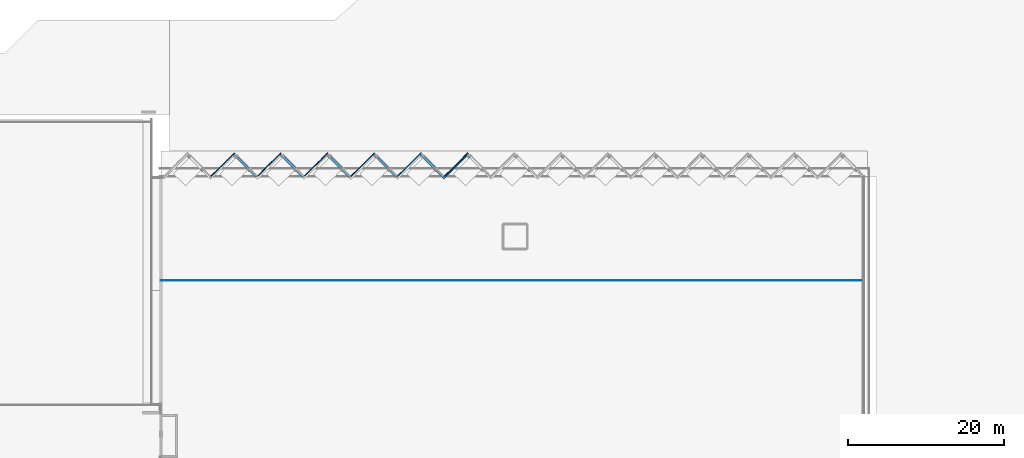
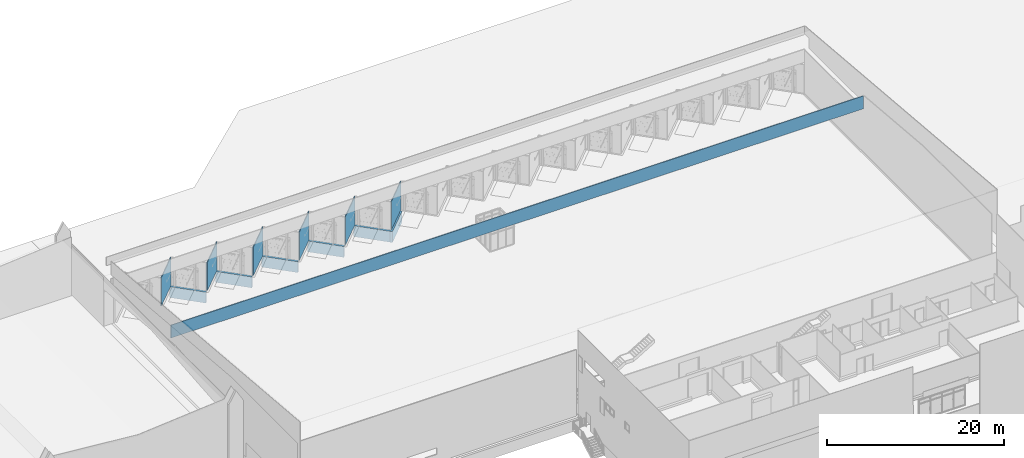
# One storey, part 35 of 64: 13 walls.
"""IFC2X3 building model written with IfcOpenShell, lengths in millimetres."""

from ifc_helpers import new_model, entity, si_unit, converted_unit, derived_unit, direction, frame, frame_2d, origin, place, context, subcontext, project, spatial, rectangle, extrude, material, layer, layer_set, layer_usage, type_object, element, save


model = new_model("IFC2X3")

# Units and contexts
model_context = context("Model", 3, precision=0.01, world=origin(), true_north=direction((4.05803320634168e-15, -1.0)))
body_context = subcontext(model_context, "Body", "Model", "MODEL_VIEW")
ifc_project = project(units=[si_unit("LENGTHUNIT", "METRE", prefix="MILLI"), si_unit("AREAUNIT", "SQUARE_METRE"), si_unit("VOLUMEUNIT", "CUBIC_METRE"), converted_unit("PLANEANGLEUNIT", "DEGREE", entity("IfcRatioMeasure", 0.0174532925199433), si_unit("PLANEANGLEUNIT", "RADIAN"), dimensions=[0, 0, 0, 0, 0, 0, 0]), si_unit("MASSUNIT", "GRAM", prefix="KILO"), derived_unit("MASSDENSITYUNIT", [(si_unit("MASSUNIT", "GRAM", prefix="KILO"), 1), (si_unit("LENGTHUNIT", "METRE"), -3)]), si_unit("TIMEUNIT", "SECOND"), si_unit("FREQUENCYUNIT", "HERTZ"), si_unit("THERMODYNAMICTEMPERATUREUNIT", "DEGREE_CELSIUS"), derived_unit("THERMALTRANSMITTANCEUNIT", [(si_unit("MASSUNIT", "GRAM", prefix="KILO"), 1), (si_unit("THERMODYNAMICTEMPERATUREUNIT", "KELVIN"), -1), (si_unit("TIMEUNIT", "SECOND"), -3)]), derived_unit("VOLUMETRICFLOWRATEUNIT", [(si_unit("LENGTHUNIT", "METRE"), 3), (si_unit("TIMEUNIT", "SECOND"), -1)]), si_unit("ELECTRICCURRENTUNIT", "AMPERE"), si_unit("ELECTRICVOLTAGEUNIT", "VOLT"), si_unit("POWERUNIT", "WATT"), si_unit("FORCEUNIT", "NEWTON", prefix="KILO"), si_unit("ILLUMINANCEUNIT", "LUX"), si_unit("LUMINOUSFLUXUNIT", "LUMEN"), si_unit("LUMINOUSINTENSITYUNIT", "CANDELA"), derived_unit("USERDEFINED", [(si_unit("MASSUNIT", "GRAM", prefix="KILO"), -1), (si_unit("LENGTHUNIT", "METRE"), -2), (si_unit("TIMEUNIT", "SECOND"), 3), (si_unit("LUMINOUSFLUXUNIT", "LUMEN"), 1)]), derived_unit("LINEARVELOCITYUNIT", [(si_unit("LENGTHUNIT", "METRE"), 1), (si_unit("TIMEUNIT", "SECOND"), -1)]), si_unit("PRESSUREUNIT", "PASCAL"), derived_unit("USERDEFINED", [(si_unit("LENGTHUNIT", "METRE"), -2), (si_unit("MASSUNIT", "GRAM", prefix="KILO"), 1), (si_unit("TIMEUNIT", "SECOND"), -2)])], contexts=[model_context])

# Site, building, storey
site_placement = place(None, frame((927466.849349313, 583801.882853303, 0.0), z_axis=(0.0, 0.0, 1.0), x_axis=(-1.0, 0.0, 0.0)))
site = spatial("IfcSite", under=ifc_project, at=site_placement, Name="Surface", CompositionType="ELEMENT")
building_placement = place(site_placement, origin())
building = spatial("IfcBuilding", under=site, at=building_placement, CompositionType="ELEMENT")
storey_placement = place(building_placement, frame((0.0, 0.0, 44170.0)))
storey = spatial("IfcBuildingStorey", under=building, at=storey_placement, Name="Ground FFL", CompositionType="ELEMENT", Elevation=44170.0)

# Walls
ifc_material_1 = material(Name="Isopenal")
ifc_layer_1 = layer(ifc_material_1, 100.0)
ifc_layer_set_1 = layer_set([ifc_layer_1], Name="Basic Wall:Isopanel")
ifc_layer_usage_1 = layer_usage(ifc_layer_set_1, "AXIS2", "POSITIVE", -50.0)
wall_type_1 = type_object("IfcWallType", Name="Basic Wall:Isopanel", PredefinedType="STANDARD", material=ifc_layer_set_1)
wall_1_placement = place(storey_placement, frame((-54150.5290695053, -33638.9669325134, 0.0), z_axis=(0.0, 0.0, 1.0), x_axis=(0.707106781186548, 0.707106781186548, 0.0)))
element("IfcWallStandardCase", 1, at=wall_1_placement, inside=storey, type_object=wall_type_1, material=ifc_layer_usage_1, Name="Basic Wall:Isopanel", ObjectType="Basic Wall:Isopanel", context=body_context, shape_type="SweptSolid", body=[
    extrude(rectangle(XDim=4232.26267936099, YDim=100.000000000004, at=frame_2d((2116.13133968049, 1.54187773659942e-12), x_axis=(-1.0, 0.0))), origin(), (0.0, 0.0, 1.0), 3910.35154955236),
])
ifc_layer_usage_2 = layer_usage(ifc_layer_set_1, "AXIS2", "POSITIVE", -50.0)
wall_2_placement = place(storey_placement, frame((-60135.8523501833, -33638.9669325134, 0.0), z_axis=(0.0, 0.0, 1.0), x_axis=(0.707106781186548, 0.707106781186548, 0.0)))
element("IfcWallStandardCase", 2, at=wall_2_placement, inside=storey, type_object=wall_type_1, material=ifc_layer_usage_2, Name="Basic Wall:Isopanel", ObjectType="Basic Wall:Isopanel", context=body_context, shape_type="SweptSolid", body=[
    extrude(rectangle(XDim=4196.29211661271, YDim=100.000000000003, at=frame_2d((2098.14605830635, 1.406874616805e-12), x_axis=(-1.0, 0.0))), origin(), (0.0, 0.0, 1.0), 3910.35154955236),
])
ifc_layer_usage_3 = layer_usage(ifc_layer_set_1, "AXIS2", "POSITIVE", -50.0)
wall_3_placement = place(storey_placement, frame((-66121.1756308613, -33638.9669325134, 0.0), z_axis=(0.0, 0.0, 1.0), x_axis=(0.707106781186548, 0.707106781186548, 0.0)))
element("IfcWallStandardCase", 3, at=wall_3_placement, inside=storey, type_object=wall_type_1, material=ifc_layer_usage_3, Name="Basic Wall:Isopanel", ObjectType="Basic Wall:Isopanel", context=body_context, shape_type="SweptSolid", body=[
    extrude(rectangle(XDim=4196.2921166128, YDim=100.000000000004, at=frame_2d((2098.1460583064, 1.54187773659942e-12), x_axis=(-1.0, 0.0))), origin(), (0.0, 0.0, 1.0), 3910.35154955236),
])
ifc_layer_usage_4 = layer_usage(ifc_layer_set_1, "AXIS2", "POSITIVE", -50.0)
wall_4_placement = place(storey_placement, frame((-72106.4989115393, -33638.9669325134, 0.0), z_axis=(0.0, 0.0, 1.0), x_axis=(0.707106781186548, 0.707106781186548, 0.0)))
element("IfcWallStandardCase", 4, at=wall_4_placement, inside=storey, type_object=wall_type_1, material=ifc_layer_usage_4, Name="Basic Wall:Isopanel", ObjectType="Basic Wall:Isopanel", context=body_context, shape_type="SweptSolid", body=[
    extrude(rectangle(XDim=4232.26267936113, YDim=100.000000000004, at=frame_2d((2116.13133968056, 5.32907051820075e-14), x_axis=(-1.0, 0.0))), origin(), (0.0, 0.0, 1.0), 3910.35154955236),
])
ifc_layer_usage_5 = layer_usage(ifc_layer_set_1, "AXIS2", "POSITIVE", -50.0)
wall_5_placement = place(storey_placement, frame((-78091.8221922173, -33638.9669325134, 0.0), z_axis=(0.0, 0.0, 1.0), x_axis=(0.707106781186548, 0.707106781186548, 0.0)))
element("IfcWallStandardCase", 5, at=wall_5_placement, inside=storey, type_object=wall_type_1, material=ifc_layer_usage_5, Name="Basic Wall:Isopanel", ObjectType="Basic Wall:Isopanel", context=body_context, shape_type="SweptSolid", body=[
    extrude(rectangle(XDim=4232.26267936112, YDim=100.000000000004, at=frame_2d((2116.13133968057, -3.01270119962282e-12), x_axis=(-1.0, 0.0))), origin(), (0.0, 0.0, 1.0), 3910.35154955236),
])
ifc_layer_usage_6 = layer_usage(ifc_layer_set_1, "AXIS2", "POSITIVE", -50.0)
wall_6_placement = place(storey_placement, frame((-84077.1454728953, -33638.9669325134, 0.0), z_axis=(0.0, 0.0, 1.0), x_axis=(0.707106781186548, 0.707106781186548, 0.0)))
element("IfcWallStandardCase", 6, at=wall_6_placement, inside=storey, type_object=wall_type_1, material=ifc_layer_usage_6, Name="Basic Wall:Isopanel", ObjectType="Basic Wall:Isopanel", context=body_context, shape_type="SweptSolid", body=[
    extrude(rectangle(XDim=4232.26267936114, YDim=99.9999999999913, at=frame_2d((2116.13133968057, 3.5527136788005e-15), x_axis=(-1.0, 0.0))), origin(), (0.0, 0.0, 1.0), 3900.0),
])
ifc_layer_usage_7 = layer_usage(ifc_layer_set_1, "AXIS2", "POSITIVE", -50.0)
wall_7_placement = place(storey_placement, frame((-44699.042329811, -17271.7403210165, 6000.0), z_axis=(0.0, 0.0, 1.0), x_axis=(-1.0, 0.0, 0.0)))
element("IfcWallStandardCase", 7, at=wall_7_placement, inside=storey, type_object=wall_type_1, material=ifc_layer_usage_7, Name="Basic Wall:Isopanel", ObjectType="Basic Wall:Isopanel", context=body_context, shape_type="SweptSolid", body=[
    extrude(rectangle(XDim=90101.549450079, YDim=99.9999999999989, at=frame_2d((45050.7747250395, 1.03028696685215e-13), x_axis=(-1.0, 0.0))), origin(), (0.0, 0.0, 1.0), 1759.99999999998),
])
ifc_material_2 = material(Name="conc bund")
ifc_layer_2 = layer(ifc_material_2, 300.0)
ifc_layer_set_2 = layer_set([ifc_layer_2], Name="Basic Wall:300 bund wall")
ifc_layer_usage_8 = layer_usage(ifc_layer_set_2, "AXIS2", "POSITIVE", -150.0)
wall_type_2 = type_object("IfcWallType", Name="Basic Wall:300 bund wall", PredefinedType="STANDARD", material=ifc_layer_set_2)
wall_8_placement = place(storey_placement, frame((-83935.7241166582, -33356.1242200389, -1500.0), z_axis=(0.0, 0.0, 1.0), x_axis=(0.70710678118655, 0.707106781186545, 0.0)))
element("IfcWallStandardCase", 8, at=wall_8_placement, inside=storey, type_object=wall_type_2, material=ifc_layer_usage_8, Name="Basic Wall:300 bund wall", ObjectType="Basic Wall:300 bund wall", context=body_context, shape_type="SweptSolid", body=[
    extrude(rectangle(XDim=4232.26267936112, YDim=299.999999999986, at=frame_2d((2116.13133968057, -5.6559201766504e-12), x_axis=(-1.0, 0.0))), origin(), (0.0, 0.0, 1.0), 1500.00000000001),
])
ifc_layer_usage_9 = layer_usage(ifc_layer_set_2, "AXIS2", "NEGATIVE", 150.0)
wall_9_placement = place(storey_placement, frame((-77950.4008359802, -33568.2562543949, -1500.0), z_axis=(0.0, 0.0, 1.0), x_axis=(-0.70710678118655, 0.707106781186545, 0.0)))
element("IfcWallStandardCase", 9, at=wall_9_placement, inside=storey, type_object=wall_type_2, material=ifc_layer_usage_9, Name="Basic Wall:300 bund wall", ObjectType="Basic Wall:300 bund wall", context=body_context, shape_type="SweptSolid", body=[
    extrude(rectangle(XDim=4232.26267936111, YDim=299.999999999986, at=frame_2d((2116.13133968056, -3.5527136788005e-12), x_axis=(-1.0, 0.0))), origin(), (0.0, 0.0, 1.0), 1500.00000000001),
])
ifc_layer_usage_10 = layer_usage(ifc_layer_set_2, "AXIS2", "NEGATIVE", 150.0)
wall_10_placement = place(storey_placement, frame((-71965.0775553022, -33568.2562543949, -1500.0), z_axis=(0.0, 0.0, 1.0), x_axis=(-0.70710678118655, 0.707106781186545, 0.0)))
element("IfcWallStandardCase", 10, at=wall_10_placement, inside=storey, type_object=wall_type_2, material=ifc_layer_usage_10, Name="Basic Wall:300 bund wall", ObjectType="Basic Wall:300 bund wall", context=body_context, shape_type="SweptSolid", body=[
    extrude(rectangle(XDim=4232.26267936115, YDim=299.999999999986, at=frame_2d((2116.13133968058, -4.40536496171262e-13), x_axis=(-1.0, 0.0))), origin(), (0.0, 0.0, 1.0), 1500.00000000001),
])
ifc_layer_usage_11 = layer_usage(ifc_layer_set_2, "AXIS2", "NEGATIVE", 150.0)
wall_11_placement = place(storey_placement, frame((-65979.7542746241, -33568.2562543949, -1500.0), z_axis=(0.0, 0.0, 1.0), x_axis=(-0.70710678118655, 0.707106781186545, 0.0)))
element("IfcWallStandardCase", 11, at=wall_11_placement, inside=storey, type_object=wall_type_2, material=ifc_layer_usage_11, Name="Basic Wall:300 bund wall", ObjectType="Basic Wall:300 bund wall", context=body_context, shape_type="SweptSolid", body=[
    extrude(rectangle(XDim=4232.26267936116, YDim=299.999999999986, at=frame_2d((2116.13133968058, -3.5527136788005e-12), x_axis=(-1.0, 0.0))), origin(), (0.0, 0.0, 1.0), 1500.00000000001),
])
ifc_layer_usage_12 = layer_usage(ifc_layer_set_2, "AXIS2", "NEGATIVE", 150.0)
wall_12_placement = place(storey_placement, frame((-59994.4309939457, -33568.2562543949, -1500.0), z_axis=(0.0, 0.0, 1.0), x_axis=(-0.70710678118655, 0.707106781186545, 0.0)))
element("IfcWallStandardCase", 12, at=wall_12_placement, inside=storey, type_object=wall_type_2, material=ifc_layer_usage_12, Name="Basic Wall:300 bund wall", ObjectType="Basic Wall:300 bund wall", context=body_context, shape_type="SweptSolid", body=[
    extrude(rectangle(XDim=4232.26267936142, YDim=299.999999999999, at=frame_2d((2116.13133968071, 2.54374299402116e-12), x_axis=(-1.0, 0.0))), origin(), (0.0, 0.0, 1.0), 1500.00000000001),
])
ifc_layer_usage_13 = layer_usage(ifc_layer_set_2, "AXIS2", "NEGATIVE", 150.0)
wall_13_placement = place(storey_placement, frame((-54009.1077132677, -33568.2562543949, -1500.0), z_axis=(0.0, 0.0, 1.0), x_axis=(-0.70710678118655, 0.707106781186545, 0.0)))
element("IfcWallStandardCase", 13, at=wall_13_placement, inside=storey, type_object=wall_type_2, material=ifc_layer_usage_13, Name="Basic Wall:300 bund wall", ObjectType="Basic Wall:300 bund wall", context=body_context, shape_type="SweptSolid", body=[
    extrude(rectangle(XDim=4232.26267936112, YDim=299.999999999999, at=frame_2d((2116.13133968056, 2.62900812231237e-12), x_axis=(-1.0, 0.0))), origin(), (0.0, 0.0, 1.0), 1500.00000000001),
])

save(model, "model.ifc")
